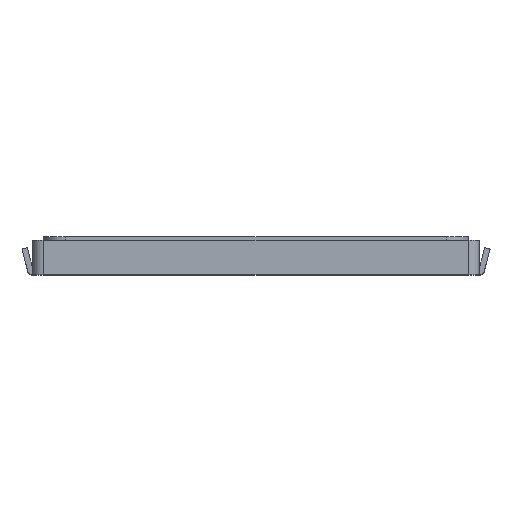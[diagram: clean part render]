
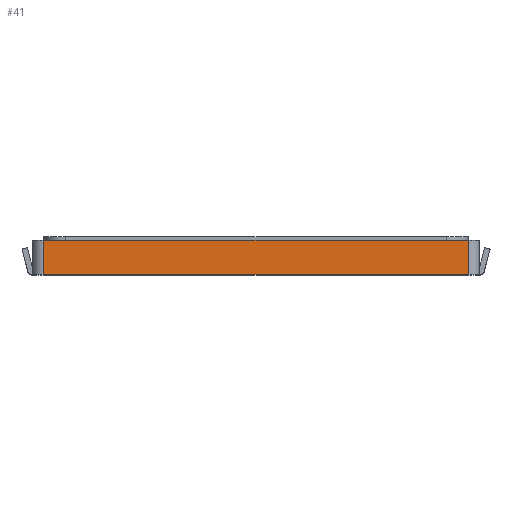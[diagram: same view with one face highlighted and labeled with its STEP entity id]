
A CAD part, top view. The second image highlights one B-rep face of the part: STEP entity #41.
In plain terms, the highlighted planar face has unit normal (0, 0, 1).
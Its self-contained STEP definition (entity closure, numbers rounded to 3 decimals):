
#41 = ADVANCED_FACE ( 'NONE', ( #2746 ), #1182, .F. ) ;
#256 = EDGE_CURVE ( 'NONE', #2408, #2522, #490, .T. ) ;
#259 = EDGE_CURVE ( 'NONE', #2411, #2421, #493, .T. ) ;
#262 = EDGE_CURVE ( 'NONE', #2522, #2411, #496, .T. ) ;
#264 = EDGE_CURVE ( 'NONE', #2421, #2408, #498, .T. ) ;
#490 = LINE ( 'NONE', #827, #659 ) ;
#493 = LINE ( 'NONE', #833, #662 ) ;
#496 = LINE ( 'NONE', #839, #665 ) ;
#498 = LINE ( 'NONE', #843, #669 ) ;
#659 = VECTOR ( 'NONE', #828, 1000. ) ;
#662 = VECTOR ( 'NONE', #834, 1000. ) ;
#665 = VECTOR ( 'NONE', #840, 1000. ) ;
#669 = VECTOR ( 'NONE', #844, 1000. ) ;
#827 = CARTESIAN_POINT ( 'NONE',  ( 1.95, 0., 2.05 ) ) ;
#828 = DIRECTION ( 'NONE',  ( -1., 0., 0. ) ) ;
#833 = CARTESIAN_POINT ( 'NONE',  ( -1.95, 0.315, 2.05 ) ) ;
#834 = DIRECTION ( 'NONE',  ( 1., 0., 0. ) ) ;
#839 = CARTESIAN_POINT ( 'NONE',  ( -1.95, 0.35, 2.05 ) ) ;
#840 = DIRECTION ( 'NONE',  ( 0., 1., 0. ) ) ;
#843 = CARTESIAN_POINT ( 'NONE',  ( 1.95, 0., 2.05 ) ) ;
#844 = DIRECTION ( 'NONE',  ( 0., -1., 0. ) ) ;
#1016 = CARTESIAN_POINT ( 'NONE',  ( 1.95, 0., 2.05 ) ) ;
#1019 = CARTESIAN_POINT ( 'NONE',  ( -1.95, 0.315, 2.05 ) ) ;
#1029 = CARTESIAN_POINT ( 'NONE',  ( 1.95, 0.315, 2.05 ) ) ;
#1130 = CARTESIAN_POINT ( 'NONE',  ( -1.95, 0., 2.05 ) ) ;
#1182 = PLANE ( 'NONE',  #1394 ) ;
#1198 = DIRECTION ( 'NONE',  ( -1., 0., 0. ) ) ;
#1207 = DIRECTION ( 'NONE',  ( 0., 0., -1. ) ) ;
#1215 = CARTESIAN_POINT ( 'NONE',  ( 1.95, 0., 2.05 ) ) ;
#1394 = AXIS2_PLACEMENT_3D ( 'NONE', #1215, #1207, #1198 ) ;
#2408 = VERTEX_POINT ( 'NONE', #1016 ) ;
#2411 = VERTEX_POINT ( 'NONE', #1019 ) ;
#2421 = VERTEX_POINT ( 'NONE', #1029 ) ;
#2522 = VERTEX_POINT ( 'NONE', #1130 ) ;
#2531 = ORIENTED_EDGE ( 'NONE', *, *, #264, .F. ) ;
#2532 = ORIENTED_EDGE ( 'NONE', *, *, #262, .F. ) ;
#2541 = ORIENTED_EDGE ( 'NONE', *, *, #256, .F. ) ;
#2557 = ORIENTED_EDGE ( 'NONE', *, *, #259, .F. ) ;
#2632 = EDGE_LOOP ( 'NONE', ( #2557, #2532, #2541, #2531 ) ) ;
#2746 = FACE_OUTER_BOUND ( 'NONE', #2632, .T. ) ;
